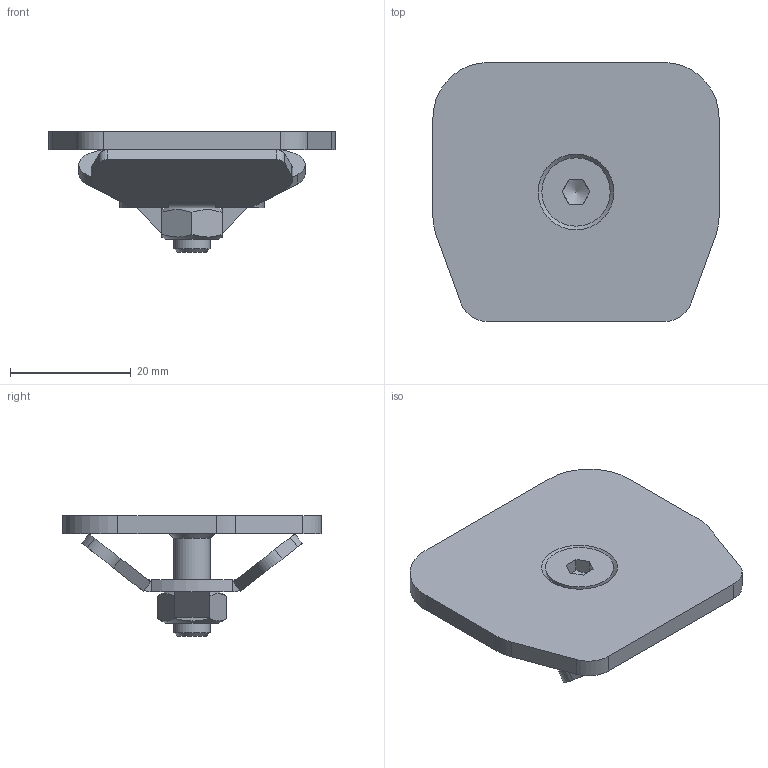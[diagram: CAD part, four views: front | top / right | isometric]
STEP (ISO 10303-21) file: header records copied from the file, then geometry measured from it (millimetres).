
FILE_DESCRIPTION(/* description */ ('Laufrohrabschluss Nr.2'),/* implementation_level */ '2;1');
FILE_NAME(/* name */ 'Q:\sge-ma\Produktmanagement-STB\STB\Workspace\TraceParts\Laufrohrabschluss\010337052.stp',/* time_stamp */ '2018-03-05T08:45:02+01:00',/* author */ ('avschreier'),/* organization */ (''),/* preprocessor_version */ 'ST-DEVELOPER v16.1',/* originating_system */ 'Autodesk Inventor 2016',/* authorisation */ '');
FILE_SCHEMA (('CONFIG_CONTROL_DESIGN'));
Length unit declared in the file: millimetre
Products named in the file (6): 010337052_Schweißnähte; 337000271; 337000270; DIN_EN_ISO_10642-M6x20_en; DIN_EN_ISO_4032-M6_en; 010337052
Assembly tree (5 placements, depth 2):
  010337052
    010337052_Schweißnähte
    337000271
    337000270
    DIN_EN_ISO_10642-M6x20_en
    DIN_EN_ISO_4032-M6_en
Bounding box: 47.5 x 43 x 20 mm (x, y, z)
Volume: 8794.1 mm3; surface area: 8082.1 mm2
Topology: 6 solids, 6 shells, 116 faces, 291 edges, 189 vertices
Faces by surface type: plane 84, cylinder 24, cone 8
Full cylindrical faces by diameter (mm): 4.917 x1, 6 x1, 6.5 x1, 11.34 x1
Entity records: 3506 total; most frequent: CARTESIAN_POINT 627, DIRECTION 568, ORIENTED_EDGE 550, EDGE_CURVE 275, LINE 204, VECTOR 204, VERTEX_POINT 183, AXIS2_PLACEMENT_3D 182
